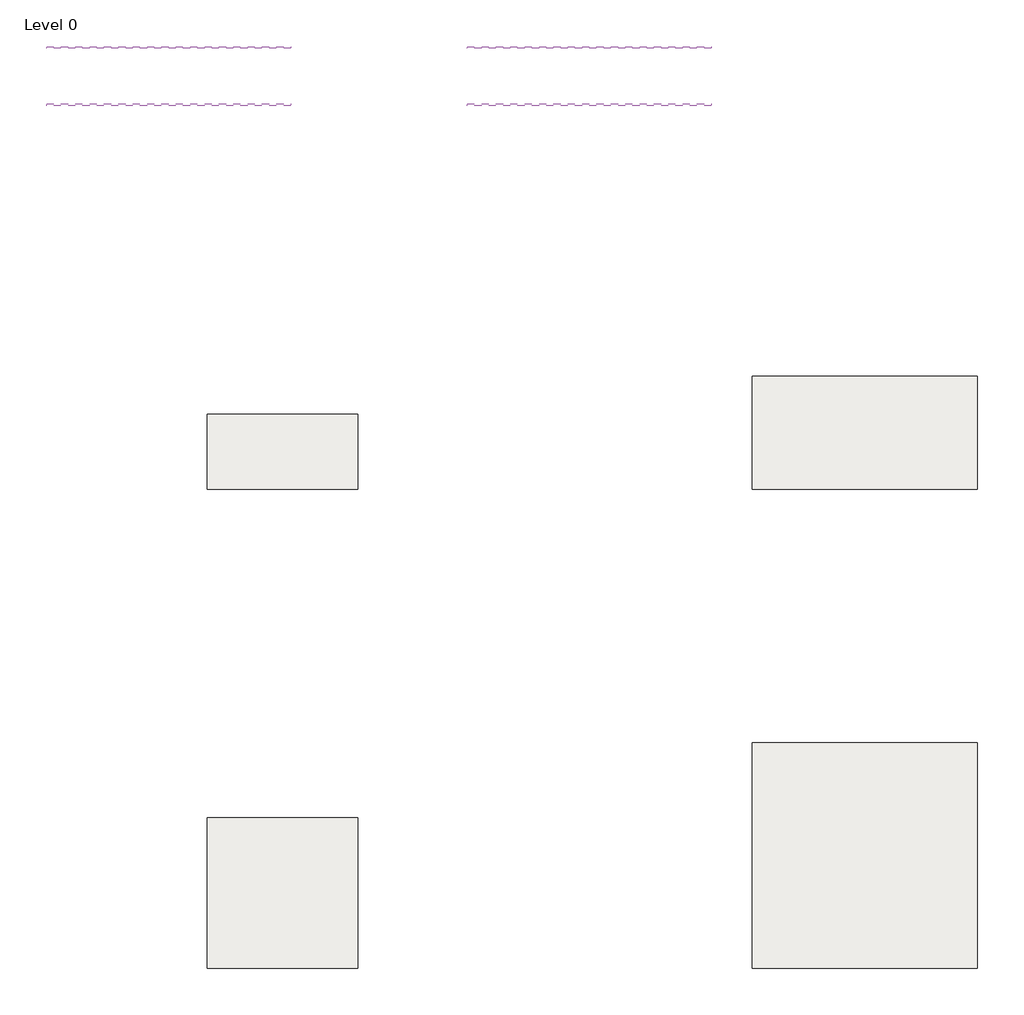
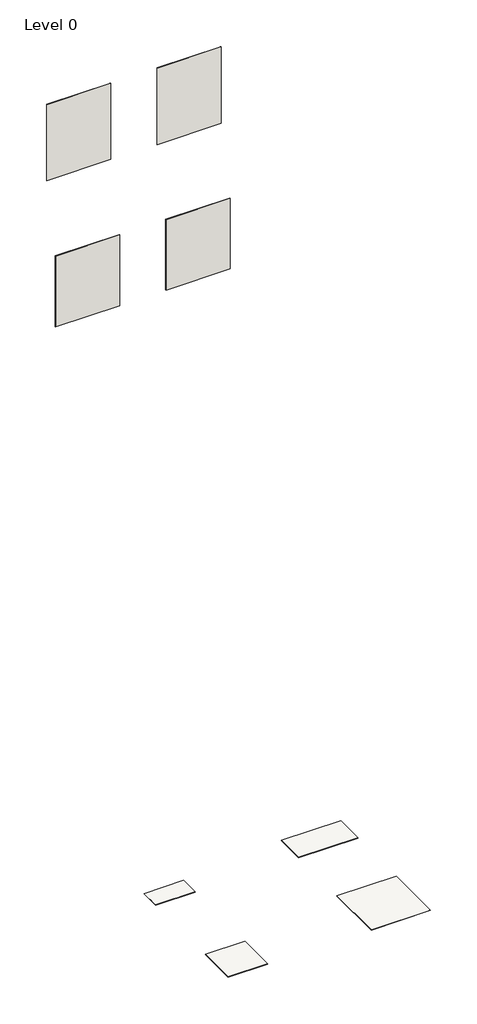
# One storey: 4 slabs, 4 walls.
"""IFC4 building model written with IfcOpenShell, lengths in millimetres."""

import ifcopenshell
import ifcopenshell.guid

model = None  # the IFC model being written
_history = None  # IfcOwnerHistory: only IFC2X3 demands one
_inside = {}  # id of a spatial element -> (the spatial element, [elements in it])
_under = {}  # id of a project, library or spatial element -> (it, [spatial elements below it])
_declared = {}  # id of a project -> (the project, [libraries it declares])
_typed = {}  # id of a type object -> (the type object, [elements of that type])
_made_of = {}  # id of a material, layer set ... -> (it, [elements and type objects made of it])


def new_model(schema):
    """Start an empty IFC model of exactly this schema.

    Asked for "IFC4X3", IfcOpenShell would pick the latest addendum, in which some entities
    have other attributes; the version numbers below select the first issue.
    IFC2X3 requires an IfcOwnerHistory on every rooted entity: one is made here for all.
    """
    global model, _history
    if schema == "IFC4X3":
        model = ifcopenshell.file(schema_version=(4, 3, 0, 0))
    else:
        model = ifcopenshell.file(schema=schema)
    _inside.clear()
    _under.clear()
    _declared.clear()
    _typed.clear()
    _made_of.clear()
    _history = None
    if model.schema == "IFC2X3":
        org = make("IfcOrganization", Name="unknown")
        user = make(
            "IfcPersonAndOrganization",
            ThePerson=make("IfcPerson", FamilyName="unknown"),
            TheOrganization=org,
        )
        app = make(
            "IfcApplication",
            ApplicationDeveloper=org,
            Version="unknown",
            ApplicationFullName="unknown",
            ApplicationIdentifier="unknown",
        )
        _history = make(
            "IfcOwnerHistory",
            OwningUser=user,
            OwningApplication=app,
            ChangeAction="ADDED",
            CreationDate=0,
        )
    return model


def make(cls, **values):
    """One entity of the class cls with the attributes given. An attribute that is None is left unset."""
    return model.create_entity(
        cls, **{name: value for name, value in values.items() if value is not None}
    )


def rooted(cls, **values):
    """An entity with a GlobalId (a new one), such as an element, a storey or a relation."""
    return make(cls, GlobalId=ifcopenshell.guid.new(), OwnerHistory=_history, **values)


def si_unit(unit_type, name, prefix=None):
    """IfcSIUnit, for example si_unit("LENGTHUNIT", "METRE", prefix="MILLI")."""
    return make("IfcSIUnit", UnitType=unit_type, Prefix=prefix, Name=name)


def assignment(units):
    """IfcUnitAssignment: the units of a project."""
    return None if units is None else make("IfcUnitAssignment", Units=units)


def point(xyz):
    """IfcCartesianPoint."""
    return None if xyz is None else make("IfcCartesianPoint", Coordinates=xyz)


def direction(xyz):
    """IfcDirection."""
    return None if xyz is None else make("IfcDirection", DirectionRatios=xyz)


def frame(location, z_axis=None, x_axis=None):
    """IfcAxis2Placement3D, a coordinate frame: its origin and axes. An axis left out is left unset."""
    return make(
        "IfcAxis2Placement3D",
        Location=point(location),
        Axis=direction(z_axis),
        RefDirection=direction(x_axis),
    )


def origin():
    """The frame at (0, 0, 0) with its axes left unset."""
    return frame((0.0, 0.0, 0.0))


def place(relative_to, where):
    """IfcLocalPlacement: puts the frame where relative to a parent placement (None: the world)."""
    return make(
        "IfcLocalPlacement", PlacementRelTo=relative_to, RelativePlacement=where
    )


def context(
    kind, dimensions, precision=None, world=None, true_north=None, identifier=None
):
    """IfcGeometricRepresentationContext, for example the 3D "Model" context."""
    return make(
        "IfcGeometricRepresentationContext",
        ContextIdentifier=identifier,
        ContextType=kind,
        CoordinateSpaceDimension=dimensions,
        Precision=precision,
        WorldCoordinateSystem=world,
        TrueNorth=true_north,
    )


def project(units=None, contexts=None):
    """IfcProject with its units and contexts."""
    return rooted(
        "IfcProject",
        Name="project",
        RepresentationContexts=contexts,
        UnitsInContext=assignment(units),
    )


def spatial(cls, under=None, at=None, **own):
    """A site, building, storey or space (cls), placed at a placement, below another one or the project."""
    s = rooted(cls, ObjectPlacement=at, **own)
    if under is not None:
        _under.setdefault(under.id(), (under, []))[1].append(s)
    return s


def polyline(points):
    """IfcPolyline through the points."""
    return make("IfcPolyline", Points=[point(p) for p in points])


def outline(outer, holes=None, kind="AREA"):
    """IfcArbitraryClosedProfileDef: a profile drawn as a closed curve; with holes, ...WithVoids."""
    if holes is None:
        return make("IfcArbitraryClosedProfileDef", ProfileType=kind, OuterCurve=outer)
    return make(
        "IfcArbitraryProfileDefWithVoids",
        ProfileType=kind,
        OuterCurve=outer,
        InnerCurves=holes,
    )


def extrude(swept, where, along, depth):
    """IfcExtrudedAreaSolid: the profile swept, set in the frame where, extruded along a direction by depth."""
    return make(
        "IfcExtrudedAreaSolid",
        SweptArea=swept,
        Position=where,
        ExtrudedDirection=direction(along),
        Depth=depth,
    )


def shape(context_of_items, identifier, shape_type, items):
    """IfcShapeRepresentation: the items that make up one representation, for example the "Body"."""
    return make(
        "IfcShapeRepresentation",
        ContextOfItems=context_of_items,
        RepresentationIdentifier=identifier,
        RepresentationType=shape_type,
        Items=items,
    )


def made_of(thing, what):
    """Note that an element or type object is made of a material, layer set ...; save() writes the relation."""
    if what is not None:
        _made_of.setdefault(what.id(), (what, []))[1].append(thing)
    return thing


def element(
    cls,
    number,
    at=None,
    inside=None,
    cuts=None,
    type_object=None,
    material=None,
    context=None,
    identifier="Body",
    shape_type=None,
    held_by="IfcProductDefinitionShape",
    body=None,
    shapes=None,
    **own,
):
    """One element of the class cls, such as IfcWall. Its Tag is "e" and its number.

    at: its placement. inside: the storey or other place that contains it. cuts: it is an
    opening in that element (IfcRelVoidsElement). A single representation is given by context,
    identifier, shape_type and body (its items); several are given by shapes. held_by: the class
    of the entity that holds the representations. save() writes the other relations.
    """
    e = rooted(cls, Tag="e%d" % number, ObjectPlacement=at, **own)
    if body is not None:
        shapes = [shape(context, identifier, shape_type, body)]
    if shapes is not None:
        e.Representation = make(held_by, Representations=shapes)
    if inside is not None:
        _inside.setdefault(inside.id(), (inside, []))[1].append(e)
    if cuts is not None:
        rooted(
            "IfcRelVoidsElement", RelatingBuildingElement=cuts, RelatedOpeningElement=e
        )
    if type_object is not None:
        _typed.setdefault(type_object.id(), (type_object, []))[1].append(e)
    return made_of(e, material)


def aggregate(whole, parts):
    """IfcRelAggregates: a whole, such as a stair, and the parts it consists of."""
    return rooted("IfcRelAggregates", RelatingObject=whole, RelatedObjects=parts)


def save(model, path):
    """Write the relations noted so far, then the file.

    IfcRelAggregates (storeys below a building ...), IfcRelContainedInSpatialStructure (elements
    in a storey), IfcRelDefinesByType, IfcRelAssociatesMaterial and IfcRelDeclares: one each for
    every whole, place, type object, material and project.
    """
    for whole, parts in _under.values():
        aggregate(whole, parts)
    for where, things in _inside.values():
        rooted(
            "IfcRelContainedInSpatialStructure",
            RelatedElements=things,
            RelatingStructure=where,
        )
    for kind, things in _typed.values():
        rooted("IfcRelDefinesByType", RelatedObjects=things, RelatingType=kind)
    for what, things in _made_of.values():
        rooted("IfcRelAssociatesMaterial", RelatedObjects=things, RelatingMaterial=what)
    for by, libraries in _declared.values():
        rooted("IfcRelDeclares", RelatingContext=by, RelatedDefinitions=libraries)
    model.write(path)


model = new_model("IFC4")

# Units and contexts
model_context = context("Model", 3, world=origin())
ifc_project = project(units=[si_unit("LENGTHUNIT", "METRE", prefix="MILLI")], contexts=[model_context])

# Site, building, storey
site = spatial("IfcSite", under=ifc_project)
building = spatial("IfcBuilding", under=site)
storey = spatial("IfcBuildingStorey", under=building, Name="Level 0", Elevation=0.0)

# Slabs
placement = place(None, origin())
element("IfcSlab", 1, ObjectType="Floor_Tiles_Refin-Affrescati-Calce-40x80 OI66", at=placement, inside=storey, context=model_context, shape_type="SweptSolid", body=[
    extrude(outline(polyline([(7574.3752062, 6188.4192064), (7574.3752062, 5788.4192064), (6774.3752062, 5788.4192064), (6774.3752062, 6188.4192064), (7574.3752062, 6188.4192064)])), frame((0.0, 0.0, -10.0), z_axis=(0.0, 0.0, 1.0), x_axis=(1.0, 0.0, 0.0)), (0.0, 0.0, 1.0), 10.0),
])
element("IfcSlab", 2, ObjectType="Floor_Tiles_Refin-Affrescati-Calce-60x120 OI01", at=placement, inside=storey, context=model_context, shape_type="SweptSolid", body=[
    extrude(outline(polyline([(10874.3752062, 6388.4192064), (10874.3752062, 5788.4192064), (9674.3752062, 5788.4192064), (9674.3752062, 6388.4192064), (10874.3752062, 6388.4192064)])), frame((0.0, 0.0, -10.0), z_axis=(0.0, 0.0, 1.0), x_axis=(1.0, 0.0, 0.0)), (0.0, 0.0, 1.0), 10.0),
])
element("IfcSlab", 3, ObjectType="Floor_Tiles_Refin-Affrescati-Calce-80x80 OH98", at=placement, inside=storey, context=model_context, shape_type="SweptSolid", body=[
    extrude(outline(polyline([(7574.3752062, 4038.4192064), (7574.3752062, 3238.4192064), (6774.3752062, 3238.4192064), (6774.3752062, 4038.4192064), (7574.3752062, 4038.4192064)])), frame((0.0, 0.0, -10.0), z_axis=(0.0, 0.0, 1.0), x_axis=(1.0, 0.0, 0.0)), (0.0, 0.0, 1.0), 10.0),
])
element("IfcSlab", 4, ObjectType="Floor_Tiles_Refin-Affrescati-Calce-120x120 OG65", at=placement, inside=storey, context=model_context, shape_type="SweptSolid", body=[
    extrude(outline(polyline([(10874.3752062, 4438.4192064), (10874.3752062, 3238.4192064), (9674.3752062, 3238.4192064), (9674.3752062, 4438.4192064), (10874.3752062, 4438.4192064)])), frame((0.0, 0.0, -10.0), z_axis=(0.0, 0.0, 1.0), x_axis=(1.0, 0.0, 0.0)), (0.0, 0.0, 1.0), 10.0),
])

# Walls
element("IfcWall", 5, ObjectType="Wall_Tiles_Refin-Affrescati-Calce-60x120 OI01", at=placement, inside=storey, context=model_context, shape_type="SweptSolid", body=[
    extrude(outline(polyline([(9457.3752062, 8132.3838631), (8157.3752062, 8132.3838631), (8157.3752062, 8142.3838631), (9457.3752062, 8142.3838631), (9457.3752062, 8132.3838631)])), frame((0.0, 0.0, 14387.6770443), z_axis=(0.0, 0.0, 1.0), x_axis=(1.0, 0.0, 0.0)), (0.0, 0.0, 1.0), 1641.7417352),
])
element("IfcWall", 6, ObjectType="Wall_Tiles_Refin-Affrescati-Calce-40x80 OI66", at=placement, inside=storey, context=model_context, shape_type="SweptSolid", body=[
    extrude(outline(polyline([(7217.3752062, 8132.3838631), (5917.3752062, 8132.3838631), (5917.3752062, 8142.3838631), (7217.3752062, 8142.3838631), (7217.3752062, 8132.3838631)])), frame((0.0, 0.0, 14403.7267346), z_axis=(0.0, 0.0, 1.0), x_axis=(1.0, 0.0, 0.0)), (0.0, 0.0, 1.0), 1625.692045),
])
element("IfcWall", 7, ObjectType="Wall_Tiles_Refin-Affrescati-Calce-80x80 OH98", at=placement, inside=storey, context=model_context, shape_type="SweptSolid", body=[
    extrude(outline(polyline([(7217.3752062, 7827.3838631), (5917.3752062, 7827.3838631), (5917.3752062, 7837.3838631), (7217.3752062, 7837.3838631), (7217.3752062, 7827.3838631)])), frame((0.0, 0.0, 11452.5436262), z_axis=(0.0, 0.0, 1.0), x_axis=(1.0, 0.0, 0.0)), (0.0, 0.0, 1.0), 1513.1985566),
])
element("IfcWall", 8, ObjectType="Wall_Tiles_Refin-Affrescati-Calce-120x120 OG65", at=placement, inside=storey, context=model_context, shape_type="SweptSolid", body=[
    extrude(outline(polyline([(9457.3752062, 7827.3838631), (8157.3752062, 7827.3838631), (8157.3752062, 7837.3838631), (9457.3752062, 7837.3838631), (9457.3752062, 7827.3838631)])), frame((0.0, 0.0, 11452.5436262), z_axis=(0.0, 0.0, 1.0), x_axis=(1.0, 0.0, 0.0)), (0.0, 0.0, 1.0), 1513.1985566),
])

save(model, "model.ifc")
